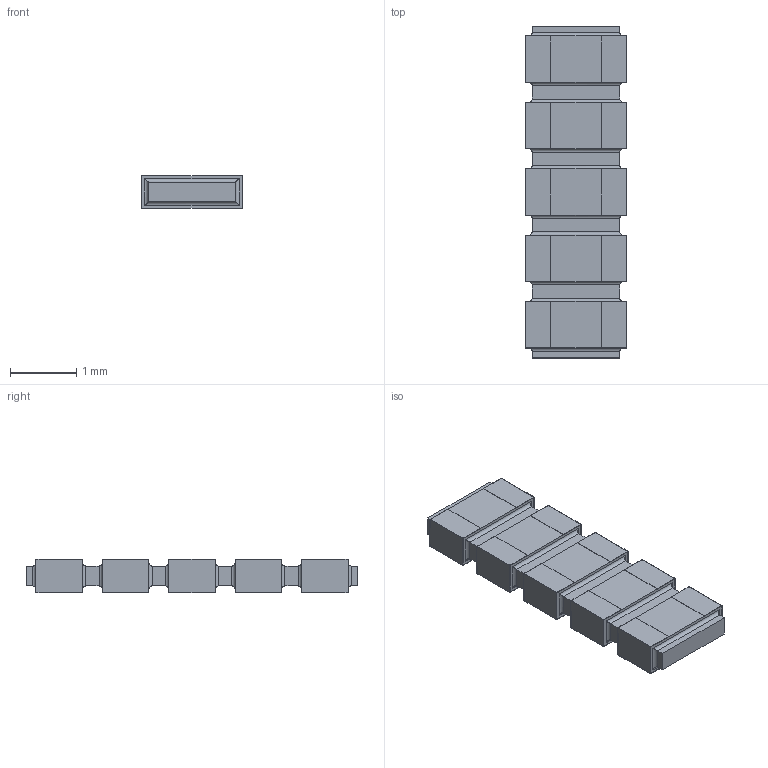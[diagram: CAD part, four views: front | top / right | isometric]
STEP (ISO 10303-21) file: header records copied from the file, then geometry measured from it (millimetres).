
FILE_DESCRIPTION(/* description */ (''),/* implementation_level */ '2;1');
FILE_NAME(/* name */ 'S:\DOCUMENT\AUTOCAD\3D_Modèles\10_3D-pour-VISHAY-COM\PRA\PRA100\PRA100-I2_à_I8\20_STEP\PRA100I5_B-or-N-or-G.stp',/* time_stamp */ '2017-12-18T09:16:18+01:00',/* author */ ('dparmentier'),/* organization */ ('unknown'),/* preprocessor_version */ 'ST-DEVELOPER v17',/* originating_system */ 'Autodesk Inventor 2018',/* authorisation */ '');
FILE_SCHEMA (('AUTOMOTIVE_DESIGN { 1 0 10303 214 3 1 1 }'));
Length unit declared in the file: millimetre
Products named in the file (1): PRA100I5_B-or-N-or-G
Bounding box: 1.52 x 5 x 0.5 mm (x, y, z)
Volume: 3.2 mm3; surface area: 40.1 mm2
Topology: 11 solids, 11 shells, 196 faces, 452 edges, 288 vertices
Faces by surface type: plane 156, cylinder 40
Entity records: 5459 total; most frequent: CARTESIAN_POINT 937, ORIENTED_EDGE 904, DIRECTION 886, EDGE_CURVE 452, LINE 412, VECTOR 412, VERTEX_POINT 288, AXIS2_PLACEMENT_3D 237
